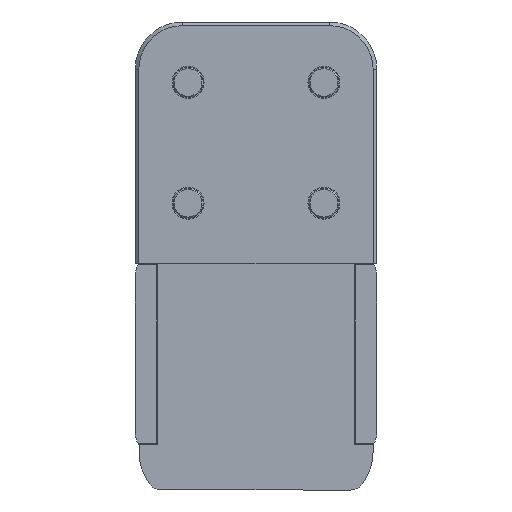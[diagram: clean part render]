
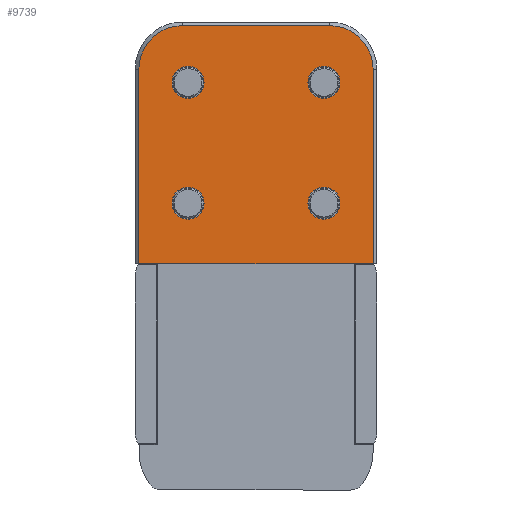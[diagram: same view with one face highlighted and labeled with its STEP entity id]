
A CAD part, left-side view. The second image highlights one B-rep face of the part: STEP entity #9739.
In plain terms, the highlighted planar face has unit normal (-1, 0, 0).
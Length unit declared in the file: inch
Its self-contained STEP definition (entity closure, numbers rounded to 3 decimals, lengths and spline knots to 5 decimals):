
#3 = CARTESIAN_POINT ( 'NONE',  ( -1.5, -1.22, 3.94 ) ) ;
#97 = CIRCLE ( 'NONE', #764, 0.2656 ) ;
#112 = LINE ( 'NONE', #9224, #9592 ) ;
#185 = DIRECTION ( 'NONE',  ( 1., 0., 0. ) ) ;
#279 = ORIENTED_EDGE ( 'NONE', *, *, #2683, .T. ) ;
#447 = DIRECTION ( 'NONE',  ( 1., 0., 0. ) ) ;
#472 = EDGE_LOOP ( 'NONE', ( #3262, #1119 ) ) ;
#495 = CIRCLE ( 'NONE', #3535, 0.2656 ) ;
#705 = CARTESIAN_POINT ( 'NONE',  ( -1.5, -1.125, 1. ) ) ;
#764 = AXIS2_PLACEMENT_3D ( 'NONE', #9986, #8392, #4299 ) ;
#811 = AXIS2_PLACEMENT_3D ( 'NONE', #8279, #3363, #1846 ) ;
#864 = CARTESIAN_POINT ( 'NONE',  ( -1.5, 1.125, 3. ) ) ;
#867 = VERTEX_POINT ( 'NONE', #7376 ) ;
#904 = EDGE_CURVE ( 'NONE', #3416, #6367, #2516, .T. ) ;
#1054 = ORIENTED_EDGE ( 'NONE', *, *, #1651, .T. ) ;
#1119 = ORIENTED_EDGE ( 'NONE', *, *, #8066, .T. ) ;
#1140 = CARTESIAN_POINT ( 'NONE',  ( -1.5, 1.125, 0.7344 ) ) ;
#1198 = VERTEX_POINT ( 'NONE', #3077 ) ;
#1229 = LINE ( 'NONE', #7232, #3353 ) ;
#1283 = CARTESIAN_POINT ( 'NONE',  ( -1.5, 1.22, 3.22 ) ) ;
#1320 = EDGE_LOOP ( 'NONE', ( #279, #1054 ) ) ;
#1516 = VERTEX_POINT ( 'NONE', #7001 ) ;
#1638 = CARTESIAN_POINT ( 'NONE',  ( -1.5, -1.125, 2.7344 ) ) ;
#1651 = EDGE_CURVE ( 'NONE', #4996, #7042, #4777, .T. ) ;
#1707 = AXIS2_PLACEMENT_3D ( 'NONE', #5601, #2450, #7231 ) ;
#1846 = DIRECTION ( 'NONE',  ( 0., 0., -1. ) ) ;
#2082 = DIRECTION ( 'NONE',  ( 0., 0., -1. ) ) ;
#2450 = DIRECTION ( 'NONE',  ( -1., 0., 0. ) ) ;
#2476 = DIRECTION ( 'NONE',  ( 1., 0., 0. ) ) ;
#2492 = DIRECTION ( 'NONE',  ( 0., 0., -1. ) ) ;
#2516 = CIRCLE ( 'NONE', #3000, 0.2656 ) ;
#2583 = AXIS2_PLACEMENT_3D ( 'NONE', #864, #2476, #8125 ) ;
#2618 = CIRCLE ( 'NONE', #1707, 0.72 ) ;
#2656 = EDGE_CURVE ( 'NONE', #9239, #9494, #2618, .T. ) ;
#2683 = EDGE_CURVE ( 'NONE', #7042, #4996, #495, .T. ) ;
#3000 = AXIS2_PLACEMENT_3D ( 'NONE', #8515, #9256, #3593 ) ;
#3077 = CARTESIAN_POINT ( 'NONE',  ( -1.5, 1.22, 3.94 ) ) ;
#3188 = DIRECTION ( 'NONE',  ( 1., 0., 0. ) ) ;
#3262 = ORIENTED_EDGE ( 'NONE', *, *, #904, .T. ) ;
#3353 = VECTOR ( 'NONE', #8832, 39.37008 ) ;
#3363 = DIRECTION ( 'NONE',  ( 1., 0., 0. ) ) ;
#3416 = VERTEX_POINT ( 'NONE', #1140 ) ;
#3535 = AXIS2_PLACEMENT_3D ( 'NONE', #705, #3188, #4843 ) ;
#3540 = CARTESIAN_POINT ( 'NONE',  ( -1.5, 1.125, 2.7344 ) ) ;
#3576 = FACE_BOUND ( 'NONE', #1320, .T. ) ;
#3593 = DIRECTION ( 'NONE',  ( 0., 0., -1. ) ) ;
#3866 = CIRCLE ( 'NONE', #8885, 0.72 ) ;
#4094 = CARTESIAN_POINT ( 'NONE',  ( -1.5, 1.125, 3.2656 ) ) ;
#4137 = VECTOR ( 'NONE', #2082, 39.37008 ) ;
#4204 = FACE_BOUND ( 'NONE', #6906, .T. ) ;
#4285 = EDGE_CURVE ( 'NONE', #867, #5078, #6542, .T. ) ;
#4299 = DIRECTION ( 'NONE',  ( 0., 0., -1. ) ) ;
#4309 = DIRECTION ( 'NONE',  ( 0., 0., -1. ) ) ;
#4426 = CARTESIAN_POINT ( 'NONE',  ( -1.5, 1.94, 0. ) ) ;
#4777 = CIRCLE ( 'NONE', #6962, 0.2656 ) ;
#4843 = DIRECTION ( 'NONE',  ( 0., 0., -1. ) ) ;
#4996 = VERTEX_POINT ( 'NONE', #6125 ) ;
#5078 = VERTEX_POINT ( 'NONE', #4426 ) ;
#5086 = ORIENTED_EDGE ( 'NONE', *, *, #5439, .T. ) ;
#5303 = CARTESIAN_POINT ( 'NONE',  ( -1.5, 1.94, 0. ) ) ;
#5388 = ORIENTED_EDGE ( 'NONE', *, *, #9565, .T. ) ;
#5426 = DIRECTION ( 'NONE',  ( -1., 0., 0. ) ) ;
#5439 = EDGE_CURVE ( 'NONE', #1516, #6825, #5633, .T. ) ;
#5502 = EDGE_CURVE ( 'NONE', #8393, #5078, #1229, .T. ) ;
#5601 = CARTESIAN_POINT ( 'NONE',  ( -1.5, -1.22, 3.22 ) ) ;
#5633 = CIRCLE ( 'NONE', #8213, 0.2656 ) ;
#5716 = CARTESIAN_POINT ( 'NONE',  ( -1.5, -1.125, 3. ) ) ;
#5734 = FACE_OUTER_BOUND ( 'NONE', #6476, .T. ) ;
#5824 = DIRECTION ( 'NONE',  ( 0., 0., -1. ) ) ;
#6035 = EDGE_CURVE ( 'NONE', #1198, #867, #3866, .T. ) ;
#6088 = DIRECTION ( 'NONE',  ( 0., 0., -1. ) ) ;
#6124 = FACE_BOUND ( 'NONE', #472, .T. ) ;
#6125 = CARTESIAN_POINT ( 'NONE',  ( -1.5, -1.125, 1.2656 ) ) ;
#6258 = EDGE_CURVE ( 'NONE', #6825, #1516, #6263, .T. ) ;
#6263 = CIRCLE ( 'NONE', #811, 0.2656 ) ;
#6367 = VERTEX_POINT ( 'NONE', #7687 ) ;
#6382 = VERTEX_POINT ( 'NONE', #3540 ) ;
#6476 = EDGE_LOOP ( 'NONE', ( #6550, #7361, #8568, #9340, #6713, #7618 ) ) ;
#6489 = FACE_BOUND ( 'NONE', #8455, .T. ) ;
#6542 = LINE ( 'NONE', #5303, #4137 ) ;
#6550 = ORIENTED_EDGE ( 'NONE', *, *, #6035, .T. ) ;
#6634 = EDGE_CURVE ( 'NONE', #8393, #9239, #9891, .T. ) ;
#6713 = ORIENTED_EDGE ( 'NONE', *, *, #2656, .T. ) ;
#6825 = VERTEX_POINT ( 'NONE', #1638 ) ;
#6863 = DIRECTION ( 'NONE',  ( 0., 1., 0. ) ) ;
#6891 = CARTESIAN_POINT ( 'NONE',  ( -1.5, -1.125, 0.7344 ) ) ;
#6906 = EDGE_LOOP ( 'NONE', ( #10154, #5086 ) ) ;
#6960 = DIRECTION ( 'NONE',  ( 0., 0., -1. ) ) ;
#6962 = AXIS2_PLACEMENT_3D ( 'NONE', #9860, #185, #5824 ) ;
#7001 = CARTESIAN_POINT ( 'NONE',  ( -1.5, -1.125, 3.2656 ) ) ;
#7042 = VERTEX_POINT ( 'NONE', #6891 ) ;
#7231 = DIRECTION ( 'NONE',  ( 0., 0., -1. ) ) ;
#7232 = CARTESIAN_POINT ( 'NONE',  ( -1.5, -2., 0. ) ) ;
#7361 = ORIENTED_EDGE ( 'NONE', *, *, #4285, .T. ) ;
#7376 = CARTESIAN_POINT ( 'NONE',  ( -1.5, 1.94, 3.22 ) ) ;
#7489 = CIRCLE ( 'NONE', #8491, 0.2656 ) ;
#7521 = EDGE_CURVE ( 'NONE', #9494, #1198, #112, .T. ) ;
#7618 = ORIENTED_EDGE ( 'NONE', *, *, #7521, .T. ) ;
#7632 = DIRECTION ( 'NONE',  ( 1., 0., 0. ) ) ;
#7687 = CARTESIAN_POINT ( 'NONE',  ( -1.5, 1.125, 1.2656 ) ) ;
#8066 = EDGE_CURVE ( 'NONE', #6367, #3416, #97, .T. ) ;
#8090 = AXIS2_PLACEMENT_3D ( 'NONE', #8369, #447, #6088 ) ;
#8125 = DIRECTION ( 'NONE',  ( 0., 0., -1. ) ) ;
#8213 = AXIS2_PLACEMENT_3D ( 'NONE', #5716, #9743, #2492 ) ;
#8279 = CARTESIAN_POINT ( 'NONE',  ( -1.5, -1.125, 3. ) ) ;
#8369 = CARTESIAN_POINT ( 'NONE',  ( -1.5, -1.0625, -3.125 ) ) ;
#8388 = CIRCLE ( 'NONE', #2583, 0.2656 ) ;
#8392 = DIRECTION ( 'NONE',  ( 1., 0., 0. ) ) ;
#8393 = VERTEX_POINT ( 'NONE', #9354 ) ;
#8409 = CARTESIAN_POINT ( 'NONE',  ( -1.5, 1.125, 3. ) ) ;
#8455 = EDGE_LOOP ( 'NONE', ( #9889, #5388 ) ) ;
#8491 = AXIS2_PLACEMENT_3D ( 'NONE', #8409, #7632, #4309 ) ;
#8513 = PLANE ( 'NONE',  #8090 ) ;
#8515 = CARTESIAN_POINT ( 'NONE',  ( -1.5, 1.125, 1. ) ) ;
#8568 = ORIENTED_EDGE ( 'NONE', *, *, #5502, .F. ) ;
#8740 = DIRECTION ( 'NONE',  ( 0., 0., 1. ) ) ;
#8772 = CARTESIAN_POINT ( 'NONE',  ( -1.5, -1.94, 3.22 ) ) ;
#8832 = DIRECTION ( 'NONE',  ( 0., 1., 0. ) ) ;
#8885 = AXIS2_PLACEMENT_3D ( 'NONE', #1283, #5426, #6960 ) ;
#9224 = CARTESIAN_POINT ( 'NONE',  ( -1.5, 1.22, 3.94 ) ) ;
#9239 = VERTEX_POINT ( 'NONE', #9348 ) ;
#9256 = DIRECTION ( 'NONE',  ( 1., 0., 0. ) ) ;
#9340 = ORIENTED_EDGE ( 'NONE', *, *, #6634, .T. ) ;
#9348 = CARTESIAN_POINT ( 'NONE',  ( -1.5, -1.94, 3.22 ) ) ;
#9354 = CARTESIAN_POINT ( 'NONE',  ( -1.5, -1.94, 0. ) ) ;
#9494 = VERTEX_POINT ( 'NONE', #3 ) ;
#9509 = VERTEX_POINT ( 'NONE', #4094 ) ;
#9565 = EDGE_CURVE ( 'NONE', #9509, #6382, #8388, .T. ) ;
#9592 = VECTOR ( 'NONE', #6863, 39.37008 ) ;
#9739 = ADVANCED_FACE ( 'NONE', ( #3576, #4204, #6489, #6124, #5734 ), #8513, .F. ) ;
#9743 = DIRECTION ( 'NONE',  ( 1., 0., 0. ) ) ;
#9769 = VECTOR ( 'NONE', #8740, 39.37008 ) ;
#9860 = CARTESIAN_POINT ( 'NONE',  ( -1.5, -1.125, 1. ) ) ;
#9889 = ORIENTED_EDGE ( 'NONE', *, *, #10140, .T. ) ;
#9891 = LINE ( 'NONE', #8772, #9769 ) ;
#9986 = CARTESIAN_POINT ( 'NONE',  ( -1.5, 1.125, 1. ) ) ;
#10140 = EDGE_CURVE ( 'NONE', #6382, #9509, #7489, .T. ) ;
#10154 = ORIENTED_EDGE ( 'NONE', *, *, #6258, .T. ) ;
